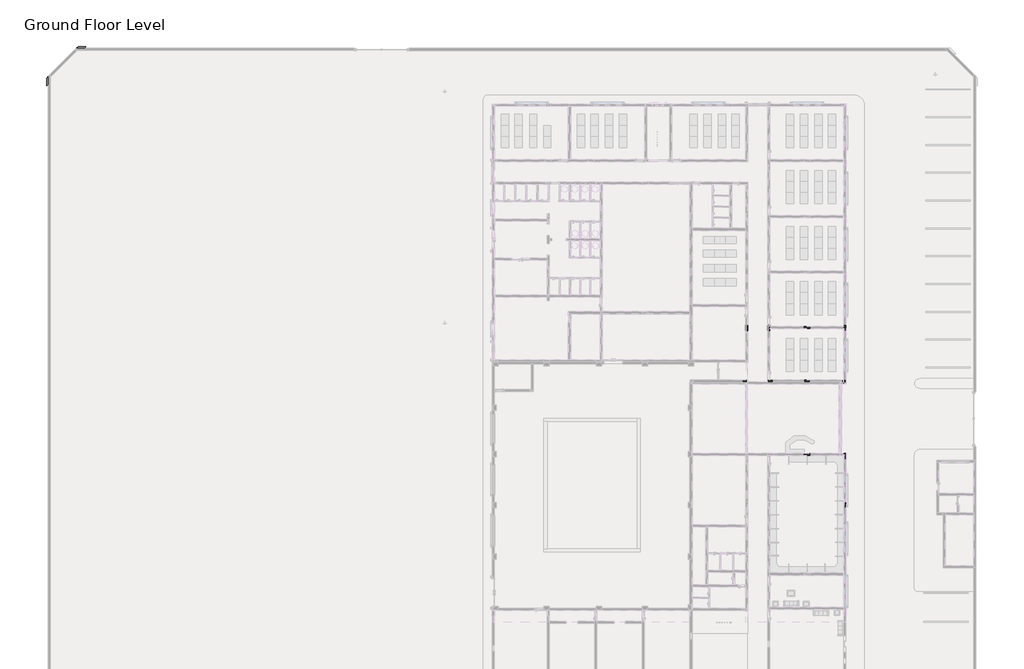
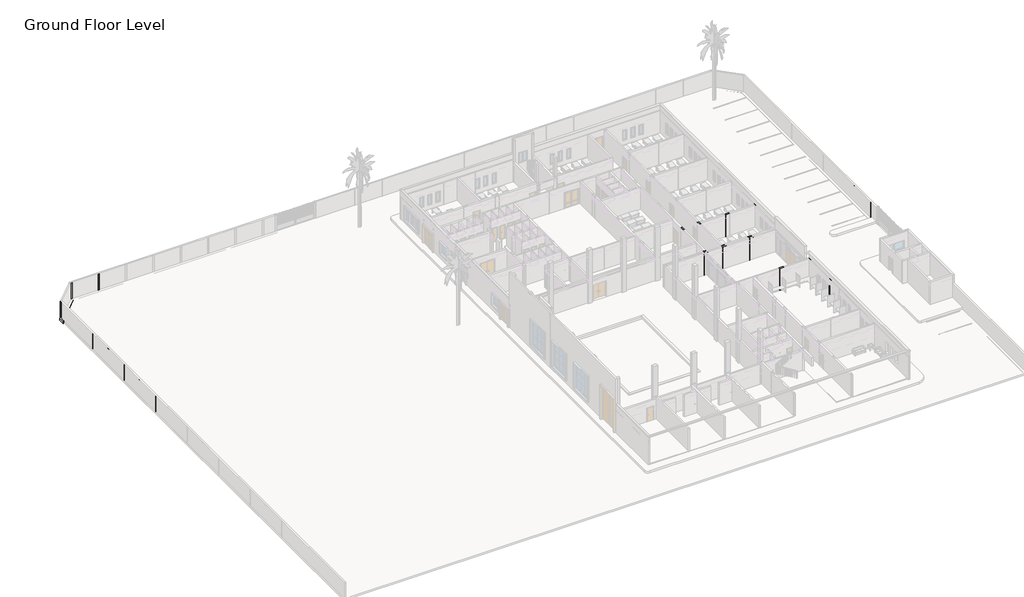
# One storey, part 17 of 23: 26 columns, 24 beams, 12 slabs, 2 footings.
"""IFC4 building model written with IfcOpenShell, lengths in millimetres."""

from ifc_helpers import new_model, si_unit, frame, origin, place, context, project, spatial, polyline, outline, extrude, faceted_brep, transform, mapped, element, save
from components import concrete_rectangular_c_9a02abf1

model = new_model("IFC4")

# Units and contexts
model_context = context("Model", 3, world=origin())
ifc_project = project(units=[si_unit("LENGTHUNIT", "METRE", prefix="MILLI")], contexts=[model_context])

# Site, building, storey
site = spatial("IfcSite", under=ifc_project)
building = spatial("IfcBuilding", under=site)
storey = spatial("IfcBuildingStorey", under=building, Name="Ground Floor Level", Elevation=900.0)

# Beams
placement = place(None, origin())
element("IfcBeam", 1, ObjectType="Concrete - Rectangular Beam : GB2", at=placement, inside=storey, context=model_context, shape_type="SweptSolid", body=[
    extrude(outline(polyline([(7652.7672395, -8354.7846466), (7652.7672395, -8554.7846466), (5452.7672395, -8554.7846466), (5452.7672395, -8354.7846466), (7652.7672395, -8354.7846466)])), frame((0.0, 0.0, 300.0), z_axis=(0.0, 0.0, 1.0), x_axis=(1.0, 0.0, 0.0)), (0.0, 0.0, 1.0), 300.0),
])
element("IfcBeam", 2, ObjectType="Concrete - Rectangular Beam : GB2", at=placement, inside=storey, context=model_context, shape_type="SweptSolid", body=[
    extrude(outline(polyline([(5502.7672395, -8334.7846466), (5502.7672395, -8134.7846466), (7652.7672395, -8134.7846466), (7652.7672395, -8334.7846466), (5502.7672395, -8334.7846466)])), frame((0.0, 0.0, 300.0), z_axis=(0.0, 0.0, 1.0), x_axis=(1.0, 0.0, 0.0)), (0.0, 0.0, 1.0), 300.0),
])
element("IfcBeam", 3, ObjectType="Concrete - Rectangular Beam : GB2", at=placement, inside=storey, context=model_context, shape_type="SweptSolid", body=[
    extrude(outline(polyline([(16052.7672395, -23904.2217867), (15852.7672395, -23904.2217867), (15852.7672395, -21854.7846466), (16052.7672395, -21854.7846466), (16052.7672395, -23904.2217867)])), frame((0.0, 0.0, 300.0), z_axis=(0.0, 0.0, 1.0), x_axis=(1.0, 0.0, 0.0)), (0.0, 0.0, 1.0), 300.0),
])
element("IfcBeam", 4, ObjectType="Concrete - Rectangular Beam : GB3", at=placement, inside=storey, context=model_context, shape_type="Brep", body=[
    faceted_brep([(15652.7672395, -8354.7846466, 300.0), (12102.7672395, -8354.7846466, 300.0), (12102.7672395, -8354.7846466, 600.0), (15652.7672395, -8354.7846466, 600.0), (15652.7672395, -8554.7846466, 300.0), (15552.7672395, -8554.7846466, 300.0), (15352.7672395, -8554.7846466, 300.0), (12152.7672395, -8554.7846466, 300.0), (12102.7672395, -8554.7846466, 300.0), (15652.7672395, -8554.7846466, 600.0), (15552.7672395, -8554.7846466, 600.0), (15352.7672395, -8554.7846466, 600.0), (12152.7672395, -8554.7846466, 600.0), (12102.7672395, -8554.7846466, 600.0)], [[[0, 1, 2, 3]], [[1, 0, 4, 5, 6, 7, 8]], [[8, 7, 6, 5, 4, 9, 10, 11, 12, 13]], [[4, 0, 3, 9]], [[1, 8, 13, 2]], [[3, 2, 13, 12, 11, 10, 9]]]),
])
element("IfcBeam", 5, ObjectType="Concrete - Rectangular Beam : GB3", at=placement, inside=storey, context=model_context, shape_type="SweptSolid", body=[
    extrude(outline(polyline([(11602.7672395, -8354.7846466), (11602.7672395, -8554.7846466), (8152.7672395, -8554.7846466), (8152.7672395, -8354.7846466), (11602.7672395, -8354.7846466)])), frame((0.0, 0.0, 300.0), z_axis=(0.0, 0.0, 1.0), x_axis=(1.0, 0.0, 0.0)), (0.0, 0.0, 1.0), 300.0),
])
element("IfcBeam", 6, ObjectType="Concrete - Rectangular Beam : GB3", at=placement, inside=storey, context=model_context, shape_type="Brep", body=[
    faceted_brep([(15652.7672395, -8134.7846466, 300.0), (12152.7672395, -8134.7846466, 300.0), (12102.7672395, -8134.7846466, 300.0), (12102.7672395, -8134.7846466, 600.0), (12152.7672395, -8134.7846466, 600.0), (15652.7672395, -8134.7846466, 600.0), (15652.7672395, -8334.7846466, 300.0), (12102.7672395, -8334.7846466, 300.0), (15652.7672395, -8334.7846466, 600.0), (12102.7672395, -8334.7846466, 600.0)], [[[0, 1, 2, 3, 4, 5]], [[2, 1, 0, 6, 7]], [[7, 6, 8, 9]], [[6, 0, 5, 8]], [[2, 7, 9, 3]], [[5, 4, 3, 9, 8]]]),
])
element("IfcBeam", 7, ObjectType="Concrete - Rectangular Beam : GB3", at=placement, inside=storey, context=model_context, shape_type="SweptSolid", body=[
    extrude(outline(polyline([(11602.7672395, -8134.7846466), (11602.7672395, -8334.7846466), (8152.7672395, -8334.7846466), (8152.7672395, -8134.7846466), (11602.7672395, -8134.7846466)])), frame((0.0, 0.0, 300.0), z_axis=(0.0, 0.0, 1.0), x_axis=(1.0, 0.0, 0.0)), (0.0, 0.0, 1.0), 300.0),
])
element("IfcBeam", 8, ObjectType="Concrete - Rectangular Beam : GB3", at=placement, inside=storey, context=model_context, shape_type="SweptSolid", body=[
    extrude(outline(polyline([(11727.9072865, -16254.7846466), (11977.6271925, -16254.7846466), (15852.7672395, -21437.7844595), (15852.7672395, -21771.7848337), (11727.9072865, -16254.7846466)])), frame((0.0, 0.0, 300.0), z_axis=(0.0, 0.0, 1.0), x_axis=(1.0, 0.0, 0.0)), (0.0, 0.0, 1.0), 300.0),
])
element("IfcBeam", 9, ObjectType="Concrete - Rectangular Beam : GB3", at=placement, inside=storey, context=model_context, shape_type="Brep", body=[
    faceted_brep([(12152.7672395, -16054.7846466, 300.0), (12152.7672395, -8554.7846466, 300.0), (12152.7672395, -8554.7846466, 600.0), (12152.7672395, -16054.7846466, 600.0), (11952.7672395, -8554.7846466, 300.0), (12102.7672395, -8554.7846466, 300.0), (11952.7672395, -16054.7846466, 300.0), (11952.7672395, -16054.7846466, 600.0), (11952.7672395, -8554.7846466, 600.0), (12102.7672395, -8554.7846466, 600.0)], [[[0, 1, 2, 3]], [[4, 5, 1, 0, 6]], [[4, 6, 7, 8]], [[1, 5, 4, 8, 9, 2]], [[6, 0, 3, 7]], [[3, 2, 9, 8, 7]]]),
])
element("IfcBeam", 10, ObjectType="Concrete - Rectangular Beam : GB3", at=placement, inside=storey, context=model_context, shape_type="Brep", body=[
    faceted_brep([(15852.7672395, -16054.7846466, 300.0), (15552.7672395, -16054.7846466, 300.0), (15352.7672395, -16054.7846466, 300.0), (12152.7672395, -16054.7846466, 300.0), (12152.7672395, -16054.7846466, 600.0), (15352.7672395, -16054.7846466, 600.0), (15552.7672395, -16054.7846466, 600.0), (15852.7672395, -16054.7846466, 600.0), (15852.7672395, -16254.7846466, 300.0), (12152.7672395, -16254.7846466, 300.0), (15852.7672395, -16254.7846466, 600.0), (12152.7672395, -16254.7846466, 600.0)], [[[0, 1, 2, 3, 4, 5, 6, 7]], [[0, 8, 9, 3, 2, 1]], [[9, 8, 10, 11]], [[8, 0, 7, 10]], [[3, 9, 11, 4]], [[7, 6, 5, 4, 11, 10]]]),
])
element("IfcBeam", 11, ObjectType="Concrete - Rectangular Beam : GB3", at=placement, inside=storey, context=model_context, shape_type="SweptSolid", body=[
    extrude(outline(polyline([(8252.7672395, -16254.7846466), (8252.7672395, -16054.7846466), (11552.7672395, -16054.7846466), (11552.7672395, -16254.7846466), (8252.7672395, -16254.7846466)])), frame((0.0, 0.0, 300.0), z_axis=(0.0, 0.0, 1.0), x_axis=(1.0, 0.0, 0.0)), (0.0, 0.0, 1.0), 300.0),
])
element("IfcBeam", 12, ObjectType="Concrete - Rectangular Beam : GB3", at=placement, inside=storey, context=model_context, shape_type="SweptSolid", body=[
    extrude(outline(polyline([(-527.2327605, -2554.7846466), (-527.2327605, -2354.7846466), (5202.7672395, -2354.7846466), (5202.7672395, -2554.7846466), (-527.2327605, -2554.7846466)])), frame((0.0, 0.0, 300.0), z_axis=(0.0, 0.0, 1.0), x_axis=(1.0, 0.0, 0.0)), (0.0, 0.0, 1.0), 300.0),
])
element("IfcBeam", 13, ObjectType="Concrete - Rectangular Beam : GB3", at=placement, inside=storey, context=model_context, shape_type="SweptSolid", body=[
    extrude(outline(polyline([(11552.7672395, -2354.7846466), (11552.7672395, -2554.7846466), (7852.7672395, -2554.7846466), (7852.7672395, -2354.7846466), (11552.7672395, -2354.7846466)])), frame((0.0, 0.0, 300.0), z_axis=(0.0, 0.0, 1.0), x_axis=(1.0, 0.0, 0.0)), (0.0, 0.0, 1.0), 300.0),
])
element("IfcBeam", 14, ObjectType="Concrete - Rectangular Beam : GB3", at=placement, inside=storey, context=model_context, shape_type="SweptSolid", body=[
    extrude(outline(polyline([(12152.7672395, -2354.7846466), (15852.7672395, -2354.7846466), (15852.7672395, -2554.7846466), (12152.7672395, -2554.7846466), (12152.7672395, -2354.7846466)])), frame((0.0, 0.0, 300.0), z_axis=(0.0, 0.0, 1.0), x_axis=(1.0, 0.0, 0.0)), (0.0, 0.0, 1.0), 300.0),
])
element("IfcBeam", 15, ObjectType="Concrete - Rectangular Beam : GB3", at=placement, inside=storey, context=model_context, shape_type="Brep", body=[
    faceted_brep([(12152.7672395, -8134.7846466, 300.0), (12152.7672395, -2554.7846466, 300.0), (12152.7672395, -2554.7846466, 600.0), (12152.7672395, -8134.7846466, 600.0), (12102.7672395, -8134.7846466, 300.0), (11952.7672395, -8134.7846466, 300.0), (11952.7672395, -2554.7846466, 300.0), (11952.7672395, -8134.7846466, 600.0), (11952.7672395, -2554.7846466, 600.0), (12102.7672395, -8134.7846466, 600.0)], [[[0, 1, 2, 3]], [[0, 4, 5, 6, 1]], [[6, 5, 7, 8]], [[5, 4, 0, 3, 9, 7]], [[1, 6, 8, 2]], [[3, 2, 8, 7, 9]]]),
])
element("IfcBeam", 16, ObjectType="Concrete - Rectangular Beam : GB4", at=placement, inside=storey, context=model_context, shape_type="SweptSolid", body=[
    extrude(outline(polyline([(15852.7672395, -2704.7846466), (16052.7672395, -2704.7846466), (16052.7672395, -8134.7846466), (15852.7672395, -8134.7846466), (15852.7672395, -2704.7846466)])), frame((0.0, 0.0, 300.0), z_axis=(0.0, 0.0, 1.0), x_axis=(1.0, 0.0, 0.0)), (0.0, 0.0, 1.0), 300.0),
])
element("IfcBeam", 17, ObjectType="Concrete - Rectangular Beam : GB4", at=placement, inside=storey, context=model_context, shape_type="Brep", body=[
    faceted_brep([(-747.2327605, -8354.7846466, 300.0), (-767.2327605, -8354.7846466, 300.0), (-767.2327605, -8354.7846466, 500.0), (-767.2327605, -8354.7846466, 600.0), (-747.2327605, -8354.7846466, 600.0), (-767.2327605, -8554.7846466, 300.0), (-747.2327605, -8554.7846466, 300.0), (-747.2327605, -8554.7846466, 600.0), (-767.2327605, -8554.7846466, 600.0)], [[[0, 1, 2, 3, 4]], [[5, 1, 0, 6]], [[5, 6, 7, 8]], [[1, 5, 8, 3, 2]], [[6, 0, 4, 7]], [[4, 3, 8, 7]]]),
    faceted_brep([(4952.7672395, -8354.7846466, 300.0), (-347.2327605, -8354.7846466, 300.0), (-347.2327605, -8354.7846466, 600.0), (4952.7672395, -8354.7846466, 600.0), (4952.7672395, -8554.7846466, 300.0), (-347.2327605, -8554.7846466, 300.0), (4952.7672395, -8554.7846466, 600.0), (-347.2327605, -8554.7846466, 600.0)], [[[0, 1, 2, 3]], [[0, 4, 5, 1]], [[5, 4, 6, 7]], [[4, 0, 3, 6]], [[1, 5, 7, 2]], [[3, 2, 7, 6]]]),
])
element("IfcBeam", 18, ObjectType="Concrete - Rectangular Beam : GB4", at=placement, inside=storey, context=model_context, shape_type="SweptSolid", body=[
    extrude(outline(polyline([(4952.7672395, -8134.7846466), (4952.7672395, -8334.7846466), (-327.2327605, -8334.7846466), (-327.2327605, -8134.7846466), (4952.7672395, -8134.7846466)])), frame((0.0, 0.0, 300.0), z_axis=(0.0, 0.0, 1.0), x_axis=(1.0, 0.0, 0.0)), (0.0, 0.0, 1.0), 300.0),
])
element("IfcBeam", 19, ObjectType="Concrete - Rectangular Beam : GB4", at=placement, inside=storey, context=model_context, shape_type="SweptSolid", body=[
    extrude(outline(polyline([(15352.7672395, -8554.7846466), (15552.7672395, -8554.7846466), (15552.7672395, -16054.7846466), (15352.7672395, -16054.7846466), (15352.7672395, -8554.7846466)])), frame((0.0, 0.0, 300.0), z_axis=(0.0, 0.0, 1.0), x_axis=(1.0, 0.0, 0.0)), (0.0, 0.0, 1.0), 300.0),
])
element("IfcBeam", 20, ObjectType="Concrete - Rectangular Beam : GB4", at=placement, inside=storey, context=model_context, shape_type="SweptSolid", body=[
    extrude(outline(polyline([(15852.7672395, -21354.7846466), (15852.7672395, -16554.7846466), (16052.7672395, -16554.7846466), (16052.7672395, -21354.7846466), (15852.7672395, -21354.7846466)])), frame((0.0, 0.0, 300.0), z_axis=(0.0, 0.0, 1.0), x_axis=(1.0, 0.0, 0.0)), (0.0, 0.0, 1.0), 300.0),
])
element("IfcBeam", 21, ObjectType="Concrete - Rectangular Beam : GB4", at=placement, inside=storey, context=model_context, shape_type="SweptSolid", body=[
    extrude(outline(polyline([(5252.7672395, -8554.7846466), (5452.7672395, -8554.7846466), (5452.7672395, -16054.7846466), (5252.7672395, -16054.7846466), (5252.7672395, -8554.7846466)])), frame((0.0, 0.0, 300.0), z_axis=(0.0, 0.0, 1.0), x_axis=(1.0, 0.0, 0.0)), (0.0, 0.0, 1.0), 300.0),
])
element("IfcBeam", 22, ObjectType="Concrete - Rectangular Beam : GB4", at=placement, inside=storey, context=model_context, shape_type="SweptSolid", body=[
    extrude(outline(polyline([(7652.7672395, -2754.7846466), (7852.7672395, -2754.7846466), (7852.7672395, -8134.7846466), (7652.7672395, -8134.7846466), (7652.7672395, -2754.7846466)])), frame((0.0, 0.0, 300.0), z_axis=(0.0, 0.0, 1.0), x_axis=(1.0, 0.0, 0.0)), (0.0, 0.0, 1.0), 300.0),
])
element("IfcBeam", 23, ObjectType="Concrete - Rectangular Beam : GB4", at=placement, inside=storey, context=model_context, shape_type="SweptSolid", body=[
    extrude(outline(polyline([(-547.2327605, -154.7846466), (-547.2327605, 45.2153534), (5252.7672395, 45.2153534), (5252.7672395, -154.7846466), (-547.2327605, -154.7846466)])), frame((0.0, 0.0, 300.0), z_axis=(0.0, 0.0, 1.0), x_axis=(1.0, 0.0, 0.0)), (0.0, 0.0, 1.0), 300.0),
])
element("IfcBeam", 24, ObjectType="Concrete - Rectangular Beam : GB6", at=placement, inside=storey, context=model_context, shape_type="Brep", body=[
    faceted_brep([(5202.7672395, -2354.7846466, 300.0), (5202.7672395, -2554.7846466, 300.0), (5202.7672395, -8134.7846466, 300.0), (5202.7672395, -8134.7846466, 600.0), (5202.7672395, -2554.7846466, 600.0), (5202.7672395, -2354.7846466, 600.0), (5252.7672395, -2354.7846466, 300.0), (5252.7672395, -2754.7846466, 300.0), (5452.7672395, -2754.7846466, 300.0), (5452.7672395, -2354.7846466, 300.0), (5502.7672395, -2354.7846466, 300.0), (5502.7672395, -8134.7846466, 300.0), (5502.7672395, -8334.7846466, 300.0), (5452.7672395, -8334.7846466, 300.0), (5452.7672395, -8134.7846466, 300.0), (5502.7672395, -2354.7846466, 600.0), (5502.7672395, -8134.7846466, 600.0), (5502.7672395, -8334.7846466, 600.0), (5252.7672395, -2354.7846466, 600.0), (5252.7672395, -2754.7846466, 600.0), (5452.7672395, -2754.7846466, 600.0), (5452.7672395, -2354.7846466, 600.0), (5452.7672395, -8134.7846466, 600.0), (5452.7672395, -8334.7846466, 600.0)], [[[0, 1, 2, 3, 4, 5]], [[6, 7, 8, 9, 10, 11, 12, 13, 14, 2, 1, 0]], [[12, 11, 10, 15, 16, 17]], [[7, 6, 18, 19]], [[9, 8, 20, 21]], [[8, 7, 19, 20]], [[2, 14, 22, 3]], [[14, 13, 23, 22]], [[6, 0, 5, 18]], [[13, 12, 17, 23]], [[10, 9, 21, 15]], [[5, 4, 3, 22, 23, 17, 16, 15, 21, 20, 19, 18]]]),
])

# Columns
element("IfcColumn", 25, ObjectType="Concrete Rectangular : C", at=placement, inside=storey, context=model_context, shape_type="SweptSolid", body=[
    extrude(outline(polyline([(-66647.1210225, 27650.6767253), (-66647.1210225, 27450.6767253), (-66847.1210225, 27450.6767253), (-66847.1210225, 27650.6767253), (-66647.1210225, 27650.6767253)])), frame((0.0, 0.0, 600.0), z_axis=(0.0, 0.0, 1.0), x_axis=(1.0, 0.0, 0.0)), (0.0, 0.0, 1.0), 2450.0),
])
element("IfcColumn", 26, ObjectType="Concrete Rectangular : C", at=placement, inside=storey, context=model_context, shape_type="SweptSolid", body=[
    extrude(outline(polyline([(-62647.1210225, 27650.6767253), (-62647.1210225, 27450.6767253), (-62847.1210225, 27450.6767253), (-62847.1210225, 27650.6767253), (-62647.1210225, 27650.6767253)])), frame((0.0, 0.0, 600.0), z_axis=(0.0, 0.0, 1.0), x_axis=(1.0, 0.0, 0.0)), (0.0, 0.0, 1.0), 2450.0),
])
concrete_rectangular_c_shape = concrete_rectangular_c_9a02abf1(model_context)
element("IfcColumn", 27, ObjectType="Concrete Rectangular : C", at=placement, inside=storey, context=model_context, shape_type="MappedRepresentation", body=[
    mapped(concrete_rectangular_c_shape, transform((29943.9253387, -3560.5931119, 0.0), x_axis=(-1.0, 0.0, 0.0), y_axis=(0.0, -1.0, 0.0), z_axis=(0.0, 0.0, 1.0))),
])
element("IfcColumn", 28, ObjectType="Concrete Rectangular : C", at=placement, inside=storey, context=model_context, shape_type="MappedRepresentation", body=[
    mapped(concrete_rectangular_c_shape, transform((29943.9253387, -7560.5931119, 0.0), x_axis=(-1.0, 0.0, 0.0), y_axis=(0.0, -1.0, 0.0), z_axis=(0.0, 0.0, 1.0))),
])
element("IfcColumn", 29, ObjectType="Concrete Rectangular : C", at=placement, inside=storey, context=model_context, shape_type="MappedRepresentation", body=[
    mapped(concrete_rectangular_c_shape, transform((-69847.2327605, 630.6193614, 0.0), x_axis=(-1.0, 0.0, 0.0), y_axis=(0.0, -1.0, 0.0), z_axis=(0.0, 0.0, 1.0))),
])
element("IfcColumn", 30, ObjectType="Concrete Rectangular : C", at=placement, inside=storey, context=model_context, shape_type="MappedRepresentation", body=[
    mapped(concrete_rectangular_c_shape, transform((-69847.2327605, 4621.7304725, 0.0), x_axis=(-1.0, 0.0, 0.0), y_axis=(0.0, -1.0, 0.0), z_axis=(0.0, 0.0, 1.0))),
])
element("IfcColumn", 31, ObjectType="Concrete Rectangular : C", at=placement, inside=storey, context=model_context, shape_type="MappedRepresentation", body=[
    mapped(concrete_rectangular_c_shape, transform((-69847.2327605, 8612.8415837, 0.0), x_axis=(-1.0, 0.0, 0.0), y_axis=(0.0, -1.0, 0.0), z_axis=(0.0, 0.0, 1.0))),
])
element("IfcColumn", 32, ObjectType="Concrete Rectangular : C", at=placement, inside=storey, context=model_context, shape_type="MappedRepresentation", body=[
    mapped(concrete_rectangular_c_shape, transform((-69847.2327605, 12603.9526948, 0.0), x_axis=(-1.0, 0.0, 0.0), y_axis=(0.0, -1.0, 0.0), z_axis=(0.0, 0.0, 1.0))),
])
element("IfcColumn", 33, ObjectType="Concrete Rectangular : C", at=placement, inside=storey, context=model_context, shape_type="MappedRepresentation", body=[
    mapped(concrete_rectangular_c_shape, transform((-69847.2327605, 16595.0638059, 0.0), x_axis=(-1.0, 0.0, 0.0), y_axis=(0.0, -1.0, 0.0), z_axis=(0.0, 0.0, 1.0))),
])
element("IfcColumn", 34, ObjectType="Concrete Rectangular : C", at=placement, inside=storey, context=model_context, shape_type="MappedRepresentation", body=[
    mapped(concrete_rectangular_c_shape, transform((-69847.2327605, 20586.174917, 0.0), x_axis=(-1.0, 0.0, 0.0), y_axis=(0.0, -1.0, 0.0), z_axis=(0.0, 0.0, 1.0))),
])
element("IfcColumn", 35, ObjectType="Concrete Rectangular : C", at=placement, inside=storey, context=model_context, shape_type="MappedRepresentation", body=[
    mapped(concrete_rectangular_c_shape, transform((-69847.2327605, 24577.2860281, 0.0), x_axis=(-1.0, 0.0, 0.0), y_axis=(0.0, -1.0, 0.0), z_axis=(0.0, 0.0, 1.0))),
])
element("IfcColumn", 36, ObjectType="Concrete Rectangular : C1", at=placement, inside=storey, context=model_context, shape_type="Brep", body=[
    faceted_brep([(15652.7672395, -8134.7846466, -300.0), (16052.7672395, -8134.7846466, -300.0), (16052.7672395, -8334.7846466, -300.0), (15652.7672395, -8334.7846466, -300.0), (16052.7672395, -8134.7846466, 600.0), (15852.7672395, -8134.7846466, 600.0), (15652.7672395, -8134.7846466, 600.0), (15652.7672395, -8334.7846466, 600.0), (16052.7672395, -8334.7846466, 600.0), (15652.7672395, -8134.7846466, 300.0), (16052.7672395, -8134.7846466, 300.0), (15652.7672395, -8334.7846466, 300.0)], [[[0, 1, 2, 3]], [[4, 5, 6, 7, 8]], [[1, 0, 9, 6, 5, 4, 10]], [[2, 1, 10, 4, 8]], [[3, 2, 8, 7, 11]], [[0, 3, 11, 7, 6, 9]]]),
    faceted_brep([(15652.7672395, -8134.7846466, 4400.0), (15842.7672395, -8134.7846466, 4400.0), (16052.7672395, -8134.7846466, 4400.0), (16052.7672395, -8134.7846466, 900.0), (15852.7672395, -8134.7846466, 900.0), (15652.7672395, -8134.7846466, 900.0), (15652.7672395, -8134.7846466, 1000.0), (16052.7672395, -8334.7846466, 4400.0), (16052.7672395, -8334.7846466, 900.0), (15842.7672395, -8334.7846466, 4400.0), (15652.7672395, -8334.7846466, 4400.0), (15652.7672395, -8334.7846466, 900.0), (15842.7672395, -8334.7846466, 900.0)], [[[0, 1, 2, 3, 4, 5, 6]], [[2, 7, 8, 3]], [[7, 9, 10, 11, 12, 8]], [[10, 0, 6, 5, 11]], [[2, 1, 0, 10, 9, 7]], [[5, 4, 3, 8, 12, 11]]]),
])
element("IfcColumn", 37, ObjectType="Concrete Rectangular : C1", at=placement, inside=storey, context=model_context, shape_type="Brep", body=[
    faceted_brep([(15652.7672395, -8354.7846466, -300.0), (16052.7672395, -8354.7846466, -300.0), (16052.7672395, -8554.7846466, -300.0), (15652.7672395, -8554.7846466, -300.0), (16052.7672395, -8354.7846466, 600.0), (15652.7672395, -8354.7846466, 600.0), (15652.7672395, -8554.7846466, 600.0), (16052.7672395, -8554.7846466, 600.0), (15652.7672395, -8354.7846466, 300.0), (15652.7672395, -8554.7846466, 300.0)], [[[0, 1, 2, 3]], [[4, 5, 6, 7]], [[1, 0, 8, 5, 4]], [[2, 1, 4, 7]], [[3, 2, 7, 6, 9]], [[0, 3, 9, 6, 5, 8]]]),
    faceted_brep([(15652.7672395, -8354.7846466, 4400.0), (15842.7672395, -8354.7846466, 4400.0), (16052.7672395, -8354.7846466, 4400.0), (16052.7672395, -8354.7846466, 900.0), (15842.7672395, -8354.7846466, 900.0), (15652.7672395, -8354.7846466, 900.0), (16052.7672395, -8554.7846466, 4400.0), (16052.7672395, -8554.7846466, 900.0), (15842.7672395, -8554.7846466, 4400.0), (15652.7672395, -8554.7846466, 4400.0), (15652.7672395, -8554.7846466, 900.0), (15842.7672395, -8554.7846466, 900.0)], [[[0, 1, 2, 3, 4, 5]], [[2, 6, 7, 3]], [[6, 8, 9, 10, 11, 7]], [[9, 0, 5, 10]], [[2, 1, 0, 9, 8, 6]], [[5, 4, 3, 7, 11, 10]]]),
])
element("IfcColumn", 38, ObjectType="Concrete Rectangular : C2", at=placement, inside=storey, context=model_context, shape_type="Brep", body=[
    faceted_brep([(16052.7672395, -21354.7846466, -300.0), (16052.7672395, -21854.7846466, -300.0), (15852.7672395, -21854.7846466, -300.0), (15852.7672395, -21354.7846466, -300.0), (16052.7672395, -21354.7846466, 4400.0), (16052.7672395, -21854.7846466, 4400.0), (16052.7672395, -21854.7846466, 900.0), (16052.7672395, -21354.7846466, 900.0), (16052.7672395, -21354.7846466, 1800.0), (16052.7672395, -21354.7846466, 3400.0), (15852.7672395, -21854.7846466, 4400.0), (15852.7672395, -21854.7846466, 1000.0), (15852.7672395, -21354.7846466, 4400.0), (15852.7672395, -21354.7846466, 3400.0), (15852.7672395, -21354.7846466, 1800.0), (15852.7672395, -21354.7846466, 1000.0)], [[[0, 1, 2, 3]], [[4, 5, 6, 1, 0, 7, 8, 9]], [[5, 10, 11, 2, 1, 6]], [[10, 12, 13, 14, 15, 3, 2, 11]], [[12, 4, 9, 8, 7, 0, 3, 15, 14, 13]], [[4, 12, 10, 5]]]),
])
element("IfcColumn", 39, ObjectType="Concrete Rectangular : C2", at=placement, inside=storey, context=model_context, shape_type="Brep", body=[
    faceted_brep([(16052.7672395, -16054.7846466, -300.0), (16052.7672395, -16554.7846466, -300.0), (15852.7672395, -16554.7846466, -300.0), (15852.7672395, -16054.7846466, -300.0), (16052.7672395, -16054.7846466, 4400.0), (16052.7672395, -16554.7846466, 4400.0), (16052.7672395, -16554.7846466, 900.0), (16052.7672395, -16054.7846466, 900.0), (15852.7672395, -16554.7846466, 4400.0), (15852.7672395, -16554.7846466, 1000.0), (15852.7672395, -16054.7846466, 4400.0), (15852.7672395, -16054.7846466, 900.0)], [[[0, 1, 2, 3]], [[4, 5, 6, 1, 0, 7]], [[5, 8, 9, 2, 1, 6]], [[8, 10, 11, 3, 2, 9]], [[10, 4, 7, 0, 3, 11]], [[4, 10, 8, 5]]]),
])
element("IfcColumn", 40, ObjectType="Concrete Rectangular : C2", at=placement, inside=storey, context=model_context, shape_type="Brep", body=[
    faceted_brep([(15852.7672395, -2704.7846466, -300.0), (15852.7672395, -2204.7846466, -300.0), (16052.7672395, -2204.7846466, -300.0), (16052.7672395, -2704.7846466, -300.0), (15852.7672395, -2204.7846466, 600.0), (15852.7672395, -2354.7846466, 600.0), (15852.7672395, -2554.7846466, 600.0), (15852.7672395, -2704.7846466, 600.0), (16052.7672395, -2704.7846466, 600.0), (16052.7672395, -2204.7846466, 600.0), (15852.7672395, -2704.7846466, 300.0), (15852.7672395, -2204.7846466, 300.0), (16052.7672395, -2204.7846466, 300.0), (16052.7672395, -2704.7846466, 300.0)], [[[0, 1, 2, 3]], [[4, 5, 6, 7, 8, 9]], [[1, 0, 10, 7, 6, 5, 4, 11]], [[2, 1, 11, 4, 9, 12]], [[3, 2, 12, 9, 8, 13]], [[0, 3, 13, 8, 7, 10]]]),
    faceted_brep([(15852.7672395, -2704.7846466, 4400.0), (15852.7672395, -2204.7846466, 4400.0), (15852.7672395, -2204.7846466, 1000.0), (15852.7672395, -2204.7846466, 900.0), (15852.7672395, -2344.7846466, 900.0), (15852.7672395, -2554.7846466, 900.0), (15852.7672395, -2704.7846466, 900.0), (15852.7672395, -2704.7846466, 1000.0), (16052.7672395, -2204.7846466, 4400.0), (16052.7672395, -2204.7846466, 900.0), (16052.7672395, -2704.7846466, 4400.0), (16052.7672395, -2704.7846466, 900.0)], [[[0, 1, 2, 3, 4, 5, 6, 7]], [[1, 8, 9, 3, 2]], [[8, 10, 11, 9]], [[10, 0, 7, 6, 11]], [[1, 0, 10, 8]], [[6, 5, 4, 3, 9, 11]]]),
])
element("IfcColumn", 41, ObjectType="Concrete Rectangular : C2", at=placement, inside=storey, context=model_context, shape_type="Brep", body=[
    faceted_brep([(11602.7672395, -8134.7846466, -300.0), (12102.7672395, -8134.7846466, -300.0), (12102.7672395, -8334.7846466, -300.0), (11602.7672395, -8334.7846466, -300.0), (12102.7672395, -8134.7846466, 600.0), (11952.7672395, -8134.7846466, 600.0), (11602.7672395, -8134.7846466, 600.0), (11602.7672395, -8334.7846466, 600.0), (12102.7672395, -8334.7846466, 600.0), (11602.7672395, -8134.7846466, 300.0), (12102.7672395, -8134.7846466, 300.0), (12102.7672395, -8334.7846466, 300.0), (11602.7672395, -8334.7846466, 300.0)], [[[0, 1, 2, 3]], [[4, 5, 6, 7, 8]], [[1, 0, 9, 6, 5, 4, 10]], [[2, 1, 10, 4, 8, 11]], [[3, 2, 11, 8, 7, 12]], [[0, 3, 12, 7, 6, 9]]]),
    faceted_brep([(11602.7672395, -8134.7846466, 4400.0), (12102.7672395, -8134.7846466, 4400.0), (12102.7672395, -8134.7846466, 1000.0), (12102.7672395, -8134.7846466, 900.0), (11602.7672395, -8134.7846466, 900.0), (11602.7672395, -8134.7846466, 1000.0), (12102.7672395, -8334.7846466, 4400.0), (12102.7672395, -8334.7846466, 900.0), (11602.7672395, -8334.7846466, 4400.0), (11602.7672395, -8334.7846466, 900.0)], [[[0, 1, 2, 3, 4, 5]], [[1, 6, 7, 3, 2]], [[6, 8, 9, 7]], [[8, 0, 5, 4, 9]], [[1, 0, 8, 6]], [[4, 3, 7, 9]]]),
])
element("IfcColumn", 42, ObjectType="Concrete Rectangular : C2", at=placement, inside=storey, context=model_context, shape_type="Brep", body=[
    faceted_brep([(11602.7672395, -8354.7846466, -300.0), (12102.7672395, -8354.7846466, -300.0), (12102.7672395, -8554.7846466, -300.0), (11602.7672395, -8554.7846466, -300.0), (12102.7672395, -8354.7846466, 600.0), (11602.7672395, -8354.7846466, 600.0), (11602.7672395, -8554.7846466, 600.0), (11952.7672395, -8554.7846466, 600.0), (12102.7672395, -8554.7846466, 600.0), (11602.7672395, -8354.7846466, 300.0), (12102.7672395, -8354.7846466, 300.0), (12102.7672395, -8554.7846466, 300.0), (11602.7672395, -8554.7846466, 300.0)], [[[0, 1, 2, 3]], [[4, 5, 6, 7, 8]], [[1, 0, 9, 5, 4, 10]], [[2, 1, 10, 4, 8, 11]], [[3, 2, 11, 8, 7, 6, 12]], [[0, 3, 12, 6, 5, 9]]]),
    faceted_brep([(11602.7672395, -8354.7846466, 4400.0), (12102.7672395, -8354.7846466, 4400.0), (12102.7672395, -8354.7846466, 900.0), (11602.7672395, -8354.7846466, 900.0), (12102.7672395, -8554.7846466, 4400.0), (12102.7672395, -8554.7846466, 900.0), (11602.7672395, -8554.7846466, 4400.0), (11602.7672395, -8554.7846466, 900.0)], [[[0, 1, 2, 3]], [[1, 4, 5, 2]], [[4, 6, 7, 5]], [[6, 0, 3, 7]], [[1, 0, 6, 4]], [[3, 2, 5, 7]]]),
])
element("IfcColumn", 43, ObjectType="Concrete Rectangular : C2", at=placement, inside=storey, context=model_context, shape_type="Brep", body=[
    faceted_brep([(7652.7672395, -8134.7846466, -300.0), (8152.7672395, -8134.7846466, -300.0), (8152.7672395, -8334.7846466, -300.0), (7652.7672395, -8334.7846466, -300.0), (8152.7672395, -8134.7846466, 600.0), (7852.7672395, -8134.7846466, 600.0), (7652.7672395, -8134.7846466, 600.0), (7652.7672395, -8334.7846466, 600.0), (8152.7672395, -8334.7846466, 600.0), (7652.7672395, -8134.7846466, 300.0), (8152.7672395, -8134.7846466, 300.0), (8152.7672395, -8334.7846466, 300.0), (7652.7672395, -8334.7846466, 300.0)], [[[0, 1, 2, 3]], [[4, 5, 6, 7, 8]], [[1, 0, 9, 6, 5, 4, 10]], [[3, 2, 11, 8, 7, 12]], [[0, 3, 12, 7, 6, 9]], [[2, 1, 10, 4, 8, 11]]]),
    faceted_brep([(7652.7672395, -8134.7846466, 4400.0), (7862.7672395, -8134.7846466, 4400.0), (8152.7672395, -8134.7846466, 4400.0), (8152.7672395, -8134.7846466, 1000.0), (8152.7672395, -8134.7846466, 900.0), (7852.7672395, -8134.7846466, 900.0), (7652.7672395, -8134.7846466, 900.0), (7652.7672395, -8134.7846466, 1000.0), (8152.7672395, -8334.7846466, 4400.0), (8152.7672395, -8334.7846466, 900.0), (7862.7672395, -8334.7846466, 4400.0), (7652.7672395, -8334.7846466, 4400.0), (7652.7672395, -8334.7846466, 1000.0), (7652.7672395, -8334.7846466, 900.0), (7862.7672395, -8334.7846466, 900.0)], [[[0, 1, 2, 3, 4, 5, 6, 7]], [[2, 8, 9, 4, 3]], [[8, 10, 11, 12, 13, 14, 9]], [[11, 0, 7, 6, 13, 12]], [[2, 1, 0, 11, 10, 8]], [[6, 5, 4, 9, 14, 13]]]),
])
element("IfcColumn", 44, ObjectType="Concrete Rectangular : C2", at=placement, inside=storey, context=model_context, shape_type="Brep", body=[
    faceted_brep([(7652.7672395, -8354.7846466, -300.0), (8152.7672395, -8354.7846466, -300.0), (8152.7672395, -8554.7846466, -300.0), (7652.7672395, -8554.7846466, -300.0), (8152.7672395, -8354.7846466, 600.0), (7652.7672395, -8354.7846466, 600.0), (7652.7672395, -8554.7846466, 600.0), (8152.7672395, -8554.7846466, 600.0), (7652.7672395, -8354.7846466, 300.0), (8152.7672395, -8354.7846466, 300.0), (8152.7672395, -8554.7846466, 300.0), (7652.7672395, -8554.7846466, 300.0)], [[[0, 1, 2, 3]], [[4, 5, 6, 7]], [[1, 0, 8, 5, 4, 9]], [[2, 1, 9, 4, 7, 10]], [[3, 2, 10, 7, 6, 11]], [[0, 3, 11, 6, 5, 8]]]),
    faceted_brep([(7652.7672395, -8354.7846466, 4400.0), (8152.7672395, -8354.7846466, 4400.0), (8152.7672395, -8354.7846466, 900.0), (7652.7672395, -8354.7846466, 900.0), (8152.7672395, -8554.7846466, 4400.0), (8152.7672395, -8554.7846466, 900.0), (7652.7672395, -8554.7846466, 4400.0), (7652.7672395, -8554.7846466, 900.0)], [[[0, 1, 2, 3]], [[1, 4, 5, 2]], [[4, 6, 7, 5]], [[6, 0, 3, 7]], [[1, 0, 6, 4]], [[3, 2, 5, 7]]]),
])
element("IfcColumn", 45, ObjectType="Concrete Rectangular : C2", at=placement, inside=storey, context=model_context, shape_type="Brep", body=[
    faceted_brep([(4952.7672395, -8134.7846466, -300.0), (5452.7672395, -8134.7846466, -300.0), (5452.7672395, -8334.7846466, -300.0), (4952.7672395, -8334.7846466, -300.0), (5452.7672395, -8134.7846466, 600.0), (5202.7672395, -8134.7846466, 600.0), (4952.7672395, -8134.7846466, 600.0), (4952.7672395, -8334.7846466, 600.0), (5452.7672395, -8334.7846466, 600.0), (4952.7672395, -8134.7846466, 300.0), (5452.7672395, -8134.7846466, 300.0), (5452.7672395, -8334.7846466, 300.0), (4952.7672395, -8334.7846466, 300.0)], [[[0, 1, 2, 3]], [[4, 5, 6, 7, 8]], [[1, 0, 9, 6, 5, 4, 10]], [[2, 1, 10, 4, 8, 11]], [[3, 2, 11, 8, 7, 12]], [[0, 3, 12, 7, 6, 9]]]),
    faceted_brep([(4952.7672395, -8134.7846466, 4400.0), (5452.7672395, -8134.7846466, 4400.0), (5452.7672395, -8134.7846466, 900.0), (4952.7672395, -8134.7846466, 900.0), (4952.7672395, -8134.7846466, 910.0), (5452.7672395, -8334.7846466, 4400.0), (5452.7672395, -8334.7846466, 900.0), (4952.7672395, -8334.7846466, 4400.0), (4952.7672395, -8334.7846466, 900.0), (4952.7672395, -8144.7846466, 900.0)], [[[0, 1, 2, 3, 4]], [[1, 5, 6, 2]], [[5, 7, 8, 6]], [[7, 0, 4, 3, 9, 8]], [[1, 0, 7, 5]], [[3, 2, 6, 8, 9]]]),
])
element("IfcColumn", 46, ObjectType="Concrete Rectangular : C2", at=placement, inside=storey, context=model_context, shape_type="Brep", body=[
    faceted_brep([(4952.7672395, -8354.7846466, -300.0), (5452.7672395, -8354.7846466, -300.0), (5452.7672395, -8554.7846466, -300.0), (4952.7672395, -8554.7846466, -300.0), (5452.7672395, -8354.7846466, 600.0), (4952.7672395, -8354.7846466, 600.0), (4952.7672395, -8554.7846466, 600.0), (5252.7672395, -8554.7846466, 600.0), (5452.7672395, -8554.7846466, 600.0), (4952.7672395, -8354.7846466, 300.0), (5452.7672395, -8354.7846466, 300.0), (5452.7672395, -8554.7846466, 300.0), (4952.7672395, -8554.7846466, 300.0)], [[[0, 1, 2, 3]], [[4, 5, 6, 7, 8]], [[1, 0, 9, 5, 4, 10]], [[2, 1, 10, 4, 8, 11]], [[3, 2, 11, 8, 7, 6, 12]], [[0, 3, 12, 6, 5, 9]]]),
    faceted_brep([(4952.7672395, -8354.7846466, 4400.0), (5452.7672395, -8354.7846466, 4400.0), (5452.7672395, -8354.7846466, 900.0), (4952.7672395, -8354.7846466, 900.0), (5452.7672395, -8554.7846466, 4400.0), (5452.7672395, -8554.7846466, 900.0), (4952.7672395, -8554.7846466, 4400.0), (4952.7672395, -8554.7846466, 900.0)], [[[0, 1, 2, 3]], [[1, 4, 5, 2]], [[4, 6, 7, 5]], [[6, 0, 3, 7]], [[1, 0, 6, 4]], [[3, 2, 5, 7]]]),
])
element("IfcColumn", 47, ObjectType="Concrete Rectangular : C3", at=placement, inside=storey, context=model_context, shape_type="Brep", body=[
    faceted_brep([(5252.7672395, -2754.7846466, -300.0), (5252.7672395, -2154.7846466, -300.0), (5452.7672395, -2154.7846466, -300.0), (5452.7672395, -2754.7846466, -300.0), (5252.7672395, -2154.7846466, 600.0), (5252.7672395, -2354.7846466, 600.0), (5252.7672395, -2754.7846466, 600.0), (5452.7672395, -2754.7846466, 600.0), (5452.7672395, -2354.7846466, 600.0), (5452.7672395, -2154.7846466, 600.0), (5252.7672395, -2754.7846466, 300.0), (5252.7672395, -2154.7846466, 300.0), (5452.7672395, -2154.7846466, 300.0), (5452.7672395, -2754.7846466, 300.0)], [[[0, 1, 2, 3]], [[4, 5, 6, 7, 8, 9]], [[1, 0, 10, 6, 5, 4, 11]], [[2, 1, 11, 4, 9, 12]], [[3, 2, 12, 9, 8, 7, 13]], [[0, 3, 13, 7, 6, 10]]]),
    faceted_brep([(5252.7672395, -2754.7846466, 4400.0), (5252.7672395, -2154.7846466, 4400.0), (5252.7672395, -2154.7846466, 1000.0), (5252.7672395, -2154.7846466, 900.0), (5252.7672395, -2754.7846466, 900.0), (5252.7672395, -2754.7846466, 1000.0), (5452.7672395, -2154.7846466, 4400.0), (5452.7672395, -2154.7846466, 1000.0), (5452.7672395, -2154.7846466, 900.0), (5452.7672395, -2754.7846466, 4400.0), (5452.7672395, -2754.7846466, 1000.0), (5452.7672395, -2754.7846466, 900.0)], [[[0, 1, 2, 3, 4, 5]], [[1, 6, 7, 8, 3, 2]], [[6, 9, 10, 11, 8, 7]], [[9, 0, 5, 4, 11, 10]], [[1, 0, 9, 6]], [[4, 3, 8, 11]]]),
])
element("IfcColumn", 48, ObjectType="Concrete Rectangular : C3", at=placement, inside=storey, context=model_context, shape_type="Brep", body=[
    faceted_brep([(7652.7672395, -2754.7846466, -300.0), (7652.7672395, -2154.7846466, -300.0), (7852.7672395, -2154.7846466, -300.0), (7852.7672395, -2754.7846466, -300.0), (7652.7672395, -2154.7846466, 600.0), (7652.7672395, -2754.7846466, 600.0), (7852.7672395, -2754.7846466, 600.0), (7852.7672395, -2554.7846466, 600.0), (7852.7672395, -2354.7846466, 600.0), (7852.7672395, -2154.7846466, 600.0), (7652.7672395, -2754.7846466, 300.0), (7652.7672395, -2154.7846466, 300.0), (7852.7672395, -2154.7846466, 300.0), (7852.7672395, -2754.7846466, 300.0)], [[[0, 1, 2, 3]], [[4, 5, 6, 7, 8, 9]], [[1, 0, 10, 5, 4, 11]], [[2, 1, 11, 4, 9, 12]], [[3, 2, 12, 9, 8, 7, 6, 13]], [[0, 3, 13, 6, 5, 10]]]),
    faceted_brep([(7652.7672395, -2754.7846466, 4400.0), (7652.7672395, -2154.7846466, 4400.0), (7652.7672395, -2154.7846466, 1000.0), (7652.7672395, -2154.7846466, 900.0), (7652.7672395, -2754.7846466, 900.0), (7652.7672395, -2754.7846466, 1000.0), (7852.7672395, -2154.7846466, 4400.0), (7852.7672395, -2154.7846466, 1000.0), (7852.7672395, -2154.7846466, 900.0), (7852.7672395, -2754.7846466, 4400.0), (7852.7672395, -2754.7846466, 1000.0), (7852.7672395, -2754.7846466, 900.0), (7852.7672395, -2554.7846466, 900.0), (7852.7672395, -2344.7846466, 900.0)], [[[0, 1, 2, 3, 4, 5]], [[1, 6, 7, 8, 3, 2]], [[6, 9, 10, 11, 12, 13, 8, 7]], [[9, 0, 5, 4, 11, 10]], [[1, 0, 9, 6]], [[4, 3, 8, 13, 12, 11]]]),
])
element("IfcColumn", 49, ObjectType="Concrete Rectangular : C3", at=placement, inside=storey, context=model_context, shape_type="Brep", body=[
    faceted_brep([(12152.7672395, -2554.7846466, -300.0), (11552.7672395, -2554.7846466, -300.0), (11552.7672395, -2354.7846466, -300.0), (12152.7672395, -2354.7846466, -300.0), (11552.7672395, -2554.7846466, 600.0), (11952.7672395, -2554.7846466, 600.0), (12152.7672395, -2554.7846466, 600.0), (12152.7672395, -2354.7846466, 600.0), (11552.7672395, -2354.7846466, 600.0), (12152.7672395, -2554.7846466, 300.0), (11552.7672395, -2554.7846466, 300.0), (11552.7672395, -2354.7846466, 300.0), (12152.7672395, -2354.7846466, 300.0)], [[[0, 1, 2, 3]], [[4, 5, 6, 7, 8]], [[1, 0, 9, 6, 5, 4, 10]], [[2, 1, 10, 4, 8, 11]], [[3, 2, 11, 8, 7, 12]], [[0, 3, 12, 7, 6, 9]]]),
    faceted_brep([(12152.7672395, -2554.7846466, 4400.0), (11552.7672395, -2554.7846466, 4400.0), (11552.7672395, -2554.7846466, 1000.0), (11552.7672395, -2554.7846466, 900.0), (12152.7672395, -2554.7846466, 900.0), (12152.7672395, -2554.7846466, 1000.0), (11552.7672395, -2354.7846466, 4400.0), (11552.7672395, -2354.7846466, 900.0), (12152.7672395, -2354.7846466, 4400.0), (12152.7672395, -2354.7846466, 900.0)], [[[0, 1, 2, 3, 4, 5]], [[1, 6, 7, 3, 2]], [[6, 8, 9, 7]], [[8, 0, 5, 4, 9]], [[1, 0, 8, 6]], [[4, 3, 7, 9]]]),
])
element("IfcColumn", 50, ObjectType="Concrete Rectangular : C3", at=placement, inside=storey, context=model_context, shape_type="Brep", body=[
    faceted_brep([(11552.7672395, -16054.7846466, -300.0), (12152.7672395, -16054.7846466, -300.0), (12152.7672395, -16254.7846466, -300.0), (11552.7672395, -16254.7846466, -300.0), (11552.7672395, -16054.7846466, 4400.0), (12152.7672395, -16054.7846466, 4400.0), (12152.7672395, -16054.7846466, 1000.0), (12152.7672395, -16054.7846466, 900.0), (11552.7672395, -16054.7846466, 900.0), (11552.7672395, -16054.7846466, 1000.0), (12152.7672395, -16254.7846466, 4400.0), (12152.7672395, -16254.7846466, 1000.0), (12152.7672395, -16254.7846466, 900.0), (11552.7672395, -16254.7846466, 4400.0), (11552.7672395, -16254.7846466, 1000.0), (11552.7672395, -16254.7846466, 900.0)], [[[0, 1, 2, 3]], [[4, 5, 6, 7, 1, 0, 8, 9]], [[5, 10, 11, 12, 2, 1, 7, 6]], [[10, 13, 14, 15, 3, 2, 12, 11]], [[13, 4, 9, 8, 0, 3, 15, 14]], [[4, 13, 10, 5]]]),
])

# Footings
element("IfcFooting", 51, ObjectType="Bearing Footing - 600 x 300", at=placement, inside=storey, context=model_context, shape_type="SweptSolid", body=[
    extrude(outline(polyline([(30072.7672395, -16794.7846454), (29472.7672395, -16794.7846454), (29472.7672395, -15294.7846454), (30072.7672395, -15294.7846454), (30072.7672395, -16794.7846454)])), frame((0.0, 0.0, 300.0), z_axis=(0.0, 0.0, 1.0), x_axis=(1.0, 0.0, 0.0)), (0.0, 0.0, 1.0), 300.0),
])
element("IfcFooting", 52, ObjectType="Bearing Footing - 600 x 300", at=placement, inside=storey, context=model_context, shape_type="Brep", body=[
    faceted_brep([(-70137.2327605, 24469.357489, 600.0), (-70137.2327605, 23620.8293516, 600.0), (-69957.2327605, 23800.8293516, 600.0), (-69957.2327605, 24649.357489, 600.0), (-65882.8467587, 27875.2153534, 600.0), (-66731.3748961, 27875.2153534, 600.0), (-66911.3748961, 27695.2153534, 600.0), (-66062.8467587, 27695.2153534, 600.0), (-69357.2327605, 24400.8293516, 600.0), (-66662.8467587, 27095.2153534, 600.0), (-70137.2327605, 24469.357489, 300.0), (-66731.3748961, 27875.2153534, 300.0), (-66911.3748961, 27695.2153534, 300.0), (-69957.2327605, 24649.357489, 300.0), (-70137.2327605, 23620.8293516, 300.0), (-69957.2327605, 23800.8293516, 300.0), (-65882.8467587, 27875.2153534, 300.0), (-66062.8467587, 27695.2153534, 300.0), (-69357.2327605, 24400.8293516, 300.0), (-66662.8467587, 27095.2153534, 300.0)], [[[0, 1, 2, 3]], [[4, 5, 6, 7]], [[3, 8, 9, 6]], [[10, 0, 3, 6, 5, 11, 12, 13]], [[14, 10, 13, 15]], [[11, 16, 17, 12]], [[18, 13, 12, 19]], [[1, 14, 15, 2]], [[16, 4, 7, 17]], [[8, 18, 19, 9]], [[1, 0, 10, 14]], [[5, 4, 16, 11]], [[13, 3, 2, 15]], [[3, 13, 18, 8]], [[6, 12, 17, 7]], [[12, 6, 9, 19]]]),
])

# Slabs
element("IfcSlab", 53, ObjectType="Footing-Rectangular : F4", at=placement, inside=storey, context=model_context, shape_type="SweptSolid", body=[
    extrude(outline(polyline([(16802.7672395, -3454.7846466), (15102.7672395, -3454.7846466), (15102.7672395, -1454.7846466), (16802.7672395, -1454.7846466), (16802.7672395, -3454.7846466)])), frame((0.0, 0.0, -800.0), z_axis=(0.0, 0.0, 1.0), x_axis=(1.0, 0.0, 0.0)), (0.0, 0.0, 1.0), 500.0),
])
element("IfcSlab", 54, ObjectType="Footing-Rectangular : F5", at=placement, inside=storey, context=model_context, shape_type="SweptSolid", body=[
    extrude(outline(polyline([(6802.7672395, -1254.7846466), (8702.7672395, -1254.7846466), (8702.7672395, -3554.7846466), (6802.7672395, -3554.7846466), (6802.7672395, -1254.7846466)])), frame((0.0, 0.0, -800.0), z_axis=(0.0, 0.0, 1.0), x_axis=(1.0, 0.0, 0.0)), (0.0, 0.0, 1.0), 500.0),
])
element("IfcSlab", 55, ObjectType="Footing-Rectangular : F5", at=placement, inside=storey, context=model_context, shape_type="SweptSolid", body=[
    extrude(outline(polyline([(14702.7672395, -9294.7846466), (14702.7672395, -7394.7846466), (17002.7672395, -7394.7846466), (17002.7672395, -9294.7846466), (14702.7672395, -9294.7846466)])), frame((0.0, 0.0, -800.0), z_axis=(0.0, 0.0, 1.0), x_axis=(1.0, 0.0, 0.0)), (0.0, 0.0, 1.0), 500.0),
])
element("IfcSlab", 56, ObjectType="Footing-Rectangular : F5", at=placement, inside=storey, context=model_context, shape_type="SweptSolid", body=[
    extrude(outline(polyline([(15002.7672395, -15154.7846466), (16902.7672395, -15154.7846466), (16902.7672395, -17454.7846466), (15002.7672395, -17454.7846466), (15002.7672395, -15154.7846466)])), frame((0.0, 0.0, -800.0), z_axis=(0.0, 0.0, 1.0), x_axis=(1.0, 0.0, 0.0)), (0.0, 0.0, 1.0), 500.0),
])
element("IfcSlab", 57, ObjectType="Footing-Rectangular : F5", at=placement, inside=storey, context=model_context, shape_type="SweptSolid", body=[
    extrude(outline(polyline([(15002.7672395, -20454.7846466), (16902.7672395, -20454.7846466), (16902.7672395, -22754.7846466), (15002.7672395, -22754.7846466), (15002.7672395, -20454.7846466)])), frame((0.0, 0.0, -800.0), z_axis=(0.0, 0.0, 1.0), x_axis=(1.0, 0.0, 0.0)), (0.0, 0.0, 1.0), 500.0),
])
element("IfcSlab", 58, ObjectType="Footing-Rectangular : F6", at=placement, inside=storey, context=model_context, shape_type="SweptSolid", body=[
    extrude(outline(polyline([(13102.7672395, -1404.7846466), (13102.7672395, -3504.7846466), (10602.7672395, -3504.7846466), (10602.7672395, -1404.7846466), (13102.7672395, -1404.7846466)])), frame((0.0, 0.0, -800.0), z_axis=(0.0, 0.0, 1.0), x_axis=(1.0, 0.0, 0.0)), (0.0, 0.0, 1.0), 500.0),
])
element("IfcSlab", 59, ObjectType="Footing-Rectangular : F6", at=placement, inside=storey, context=model_context, shape_type="SweptSolid", body=[
    extrude(outline(polyline([(6652.7672395, -9394.7846466), (6652.7672395, -7294.7846466), (9152.7672395, -7294.7846466), (9152.7672395, -9394.7846466), (6652.7672395, -9394.7846466)])), frame((0.0, 0.0, -800.0), z_axis=(0.0, 0.0, 1.0), x_axis=(1.0, 0.0, 0.0)), (0.0, 0.0, 1.0), 500.0),
])
element("IfcSlab", 60, ObjectType="Footing-Rectangular : F6", at=placement, inside=storey, context=model_context, shape_type="SweptSolid", body=[
    extrude(outline(polyline([(6702.7672395, -17204.7846466), (6702.7672395, -15104.7846466), (9202.7672395, -15104.7846466), (9202.7672395, -17204.7846466), (6702.7672395, -17204.7846466)])), frame((0.0, 0.0, -800.0), z_axis=(0.0, 0.0, 1.0), x_axis=(1.0, 0.0, 0.0)), (0.0, 0.0, 1.0), 500.0),
])
element("IfcSlab", 61, ObjectType="Footing-Rectangular : F7", at=placement, inside=storey, context=model_context, shape_type="SweptSolid", body=[
    extrude(outline(polyline([(6502.7672395, -3804.7846466), (4202.7672395, -3804.7846466), (4202.7672395, -1104.7846466), (6502.7672395, -1104.7846466), (6502.7672395, -3804.7846466)])), frame((0.0, 0.0, -800.0), z_axis=(0.0, 0.0, 1.0), x_axis=(1.0, 0.0, 0.0)), (0.0, 0.0, 1.0), 500.0),
])
element("IfcSlab", 62, ObjectType="Footing-Rectangular : F7", at=placement, inside=storey, context=model_context, shape_type="SweptSolid", body=[
    extrude(outline(polyline([(10502.7672395, -9494.7846466), (10502.7672395, -7194.7846466), (13202.7672395, -7194.7846466), (13202.7672395, -9494.7846466), (10502.7672395, -9494.7846466)])), frame((0.0, 0.0, -800.0), z_axis=(0.0, 0.0, 1.0), x_axis=(1.0, 0.0, 0.0)), (0.0, 0.0, 1.0), 500.0),
])
element("IfcSlab", 63, ObjectType="Footing-Rectangular : F7", at=placement, inside=storey, context=model_context, shape_type="SweptSolid", body=[
    extrude(outline(polyline([(3852.7672395, -9494.7846466), (3852.7672395, -7194.7846466), (6552.7672395, -7194.7846466), (6552.7672395, -9494.7846466), (3852.7672395, -9494.7846466)])), frame((0.0, 0.0, -800.0), z_axis=(0.0, 0.0, 1.0), x_axis=(1.0, 0.0, 0.0)), (0.0, 0.0, 1.0), 500.0),
])
element("IfcSlab", 64, ObjectType="Footing-Rectangular : F8", at=placement, inside=storey, context=model_context, shape_type="SweptSolid", body=[
    extrude(outline(polyline([(10402.7672395, -17404.7846466), (10402.7672395, -14904.7846466), (13302.7672395, -14904.7846466), (13302.7672395, -17404.7846466), (10402.7672395, -17404.7846466)])), frame((0.0, 0.0, -800.0), z_axis=(0.0, 0.0, 1.0), x_axis=(1.0, 0.0, 0.0)), (0.0, 0.0, 1.0), 500.0),
])

save(model, "model.ifc")
